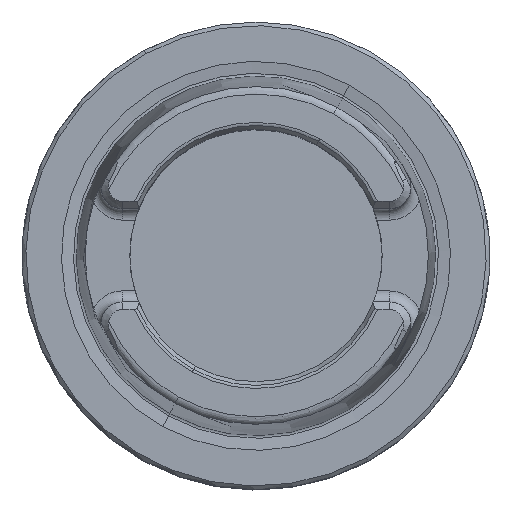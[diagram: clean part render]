
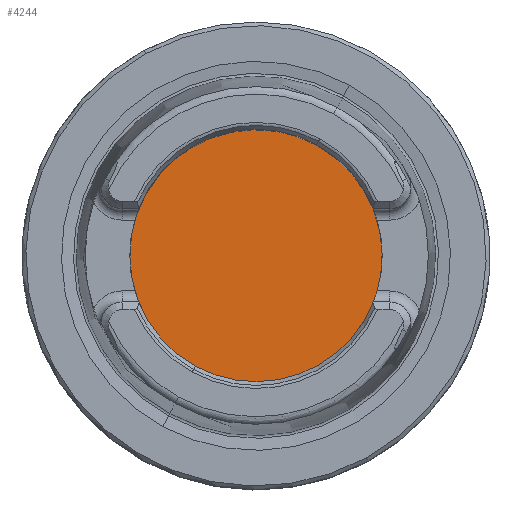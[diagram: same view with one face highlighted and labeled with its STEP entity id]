
A CAD part, top view. The second image highlights one B-rep face of the part: STEP entity #4244.
In plain terms, the highlighted planar face has unit normal (0, 0, 1).
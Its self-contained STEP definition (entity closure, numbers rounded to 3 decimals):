
#111=AXIS2_PLACEMENT_3D('Circle Axis2P3D',#109,#110,$) ;
#485=AXIS2_PLACEMENT_3D('Circle Axis2P3D',#483,#484,$) ;
#4238=AXIS2_PLACEMENT_3D('Plane Axis2P3D',#4235,#4236,#4237) ;
#106=CARTESIAN_POINT('Vertex',(8.15,14.919,-10.)) ;
#109=CARTESIAN_POINT('Axis2P3D Location',(0.,0.,-10.)) ;
#113=CARTESIAN_POINT('Vertex',(-8.15,-14.919,-10.)) ;
#483=CARTESIAN_POINT('Axis2P3D Location',(0.,0.,-10.)) ;
#4235=CARTESIAN_POINT('Axis2P3D Location',(0.,-15.75,-10.)) ;
#110=DIRECTION('Axis2P3D Direction',(0.,0.,-1.)) ;
#484=DIRECTION('Axis2P3D Direction',(0.,0.,-1.)) ;
#4236=DIRECTION('Axis2P3D Direction',(0.,0.,-1.)) ;
#4237=DIRECTION('Axis2P3D XDirection',(-1.,0.,0.)) ;
#4241=ORIENTED_EDGE('',*,*,#115,.T.) ;
#4242=ORIENTED_EDGE('',*,*,#487,.T.) ;
#4244=ADVANCED_FACE('NO_CUT',(#4243),#4239,.F.) ;
#112=CIRCLE('generated circle',#111,17.) ;
#486=CIRCLE('generated circle',#485,17.) ;
#115=EDGE_CURVE('',#114,#107,#112,.F.) ;
#487=EDGE_CURVE('',#107,#114,#486,.F.) ;
#4240=EDGE_LOOP('',(#4241,#4242)) ;
#4243=FACE_OUTER_BOUND('',#4240,.T.) ;
#4239=PLANE('',#4238) ;
#107=VERTEX_POINT('',#106) ;
#114=VERTEX_POINT('',#113) ;
